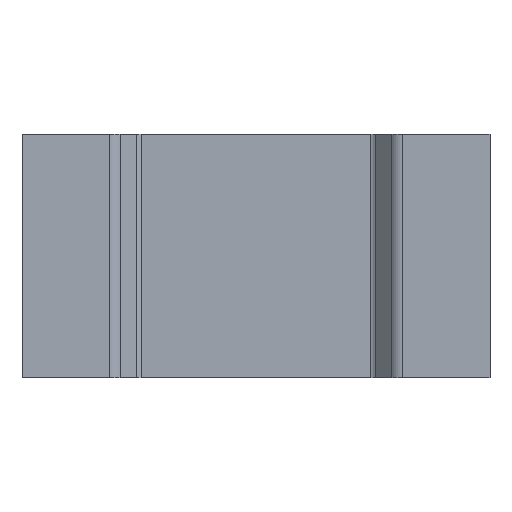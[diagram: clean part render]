
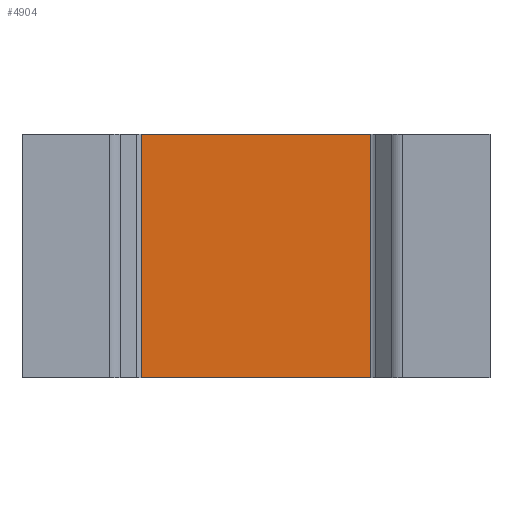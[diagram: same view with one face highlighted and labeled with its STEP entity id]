
A CAD part, front view. The second image highlights one B-rep face of the part: STEP entity #4904.
In plain terms, the highlighted planar face has unit normal (0, -1, 0).
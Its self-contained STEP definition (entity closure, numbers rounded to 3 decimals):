
#221 = PLANE ( 'NONE',  #4467 ) ;
#358 = ORIENTED_EDGE ( 'NONE', *, *, #3804, .F. ) ;
#371 = DIRECTION ( 'NONE',  ( 1., 0., 0. ) ) ;
#491 = CARTESIAN_POINT ( 'NONE',  ( -2.45, 0.5, 2.6 ) ) ;
#758 = LINE ( 'NONE', #2082, #2130 ) ;
#786 = ORIENTED_EDGE ( 'NONE', *, *, #3431, .T. ) ;
#976 = VECTOR ( 'NONE', #371, 1000. ) ;
#991 = EDGE_LOOP ( 'NONE', ( #358, #786, #4386, #4442 ) ) ;
#1038 = VERTEX_POINT ( 'NONE', #3596 ) ;
#1437 = LINE ( 'NONE', #3248, #1705 ) ;
#1676 = CARTESIAN_POINT ( 'NONE',  ( -2.45, 0.5, -2.6 ) ) ;
#1705 = VECTOR ( 'NONE', #4107, 1000. ) ;
#1880 = EDGE_CURVE ( 'NONE', #3010, #2085, #5616, .T. ) ;
#1933 = EDGE_CURVE ( 'NONE', #5361, #3010, #1437, .T. ) ;
#2082 = CARTESIAN_POINT ( 'NONE',  ( 2.45, 0.5, -7.511 ) ) ;
#2085 = VERTEX_POINT ( 'NONE', #4161 ) ;
#2130 = VECTOR ( 'NONE', #2517, 1000. ) ;
#2197 = DIRECTION ( 'NONE',  ( -1., 0., 0. ) ) ;
#2517 = DIRECTION ( 'NONE',  ( 0., 0., 1. ) ) ;
#2800 = DIRECTION ( 'NONE',  ( 0., -1., 0. ) ) ;
#3010 = VERTEX_POINT ( 'NONE', #4247 ) ;
#3248 = CARTESIAN_POINT ( 'NONE',  ( -2.45, 0.5, -7.511 ) ) ;
#3431 = EDGE_CURVE ( 'NONE', #1038, #2085, #758, .T. ) ;
#3596 = CARTESIAN_POINT ( 'NONE',  ( 2.45, 0.5, -2.6 ) ) ;
#3732 = CARTESIAN_POINT ( 'NONE',  ( -2.45, 0.5, -2.6 ) ) ;
#3804 = EDGE_CURVE ( 'NONE', #1038, #5361, #5685, .T. ) ;
#3972 = VECTOR ( 'NONE', #2197, 1000. ) ;
#4085 = CARTESIAN_POINT ( 'NONE',  ( -2.45, 0.5, -7.511 ) ) ;
#4107 = DIRECTION ( 'NONE',  ( 0., 0., 1. ) ) ;
#4161 = CARTESIAN_POINT ( 'NONE',  ( 2.45, 0.5, 2.6 ) ) ;
#4165 = FACE_OUTER_BOUND ( 'NONE', #991, .T. ) ;
#4247 = CARTESIAN_POINT ( 'NONE',  ( -2.45, 0.5, 2.6 ) ) ;
#4386 = ORIENTED_EDGE ( 'NONE', *, *, #1880, .F. ) ;
#4442 = ORIENTED_EDGE ( 'NONE', *, *, #1933, .F. ) ;
#4467 = AXIS2_PLACEMENT_3D ( 'NONE', #4085, #2800, #5004 ) ;
#4904 = ADVANCED_FACE ( 'NONE', ( #4165 ), #221, .T. ) ;
#5004 = DIRECTION ( 'NONE',  ( 0., 0., -1. ) ) ;
#5361 = VERTEX_POINT ( 'NONE', #3732 ) ;
#5616 = LINE ( 'NONE', #491, #976 ) ;
#5685 = LINE ( 'NONE', #1676, #3972 ) ;
